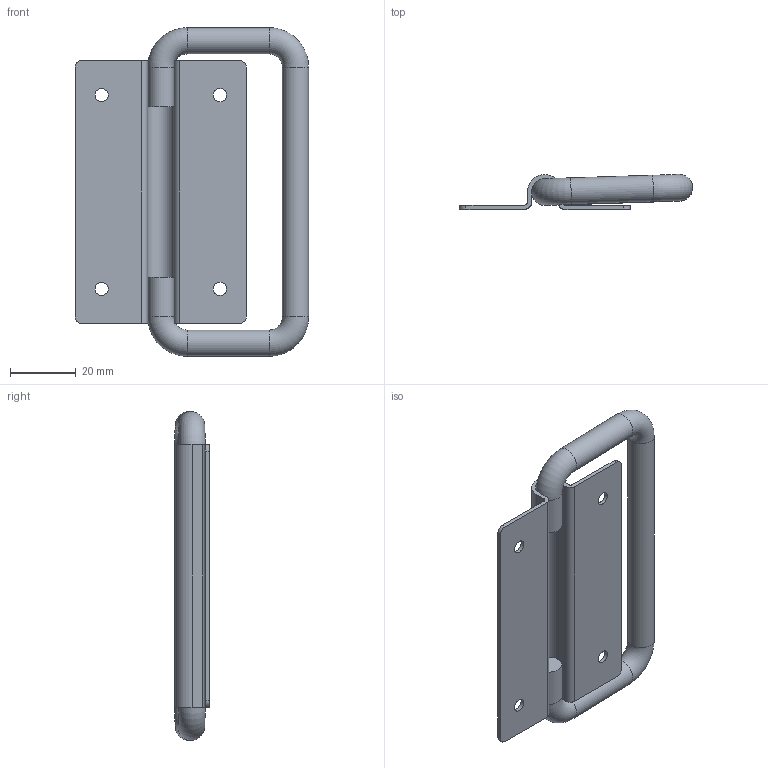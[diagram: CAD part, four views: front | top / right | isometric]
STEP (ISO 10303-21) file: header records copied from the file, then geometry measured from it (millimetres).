
FILE_DESCRIPTION(/* description */ (''),/* implementation_level */ '2;1');
FILE_NAME(/* name */ '\\NAS\db20\A-FT1-2\DR_A-FT1-2.stp',/* time_stamp */ '2018-08-09T17:08:48+09:00',/* author */ ('user'),/* organization */ (''),/* preprocessor_version */ 'ST-DEVELOPER v15.6',/* originating_system */ 'Autodesk Inventor 2015',/* authorisation */ '');
FILE_SCHEMA (('AUTOMOTIVE_DESIGN { 1 0 10303 214 3 1 1 }'));
Length unit declared in the file: millimetre
Products named in the file (3): DR_A-FT1-2-P; DR_A-FT1-2-H; DR_A-FT1-2
Bounding box: 70.98 x 10.56 x 100 mm (x, y, z)
Volume: 16294.9 mm3; surface area: 15879.4 mm2
Topology: 2 solids, 2 shells, 37 faces, 95 edges, 62 vertices
Faces by surface type: cylinder 19, plane 14, torus 4
Full cylindrical faces by diameter (mm): 4 x4, 8 x5
Entity records: 1129 total; most frequent: DIRECTION 200, CARTESIAN_POINT 178, ORIENTED_EDGE 156, AXIS2_PLACEMENT_3D 80, EDGE_CURVE 78, EDGE_LOOP 58, VERTEX_POINT 58, LINE 40
